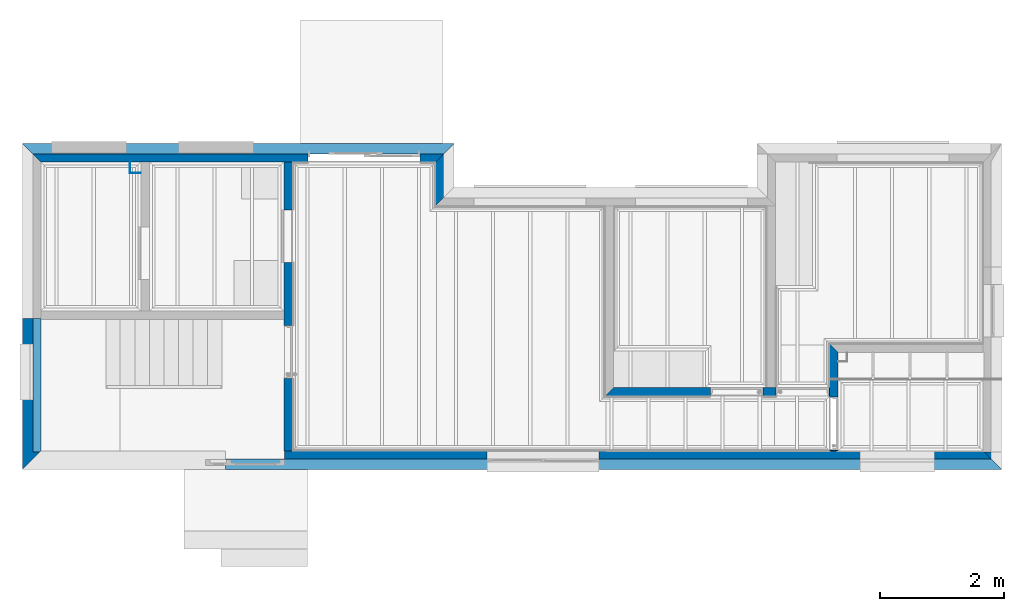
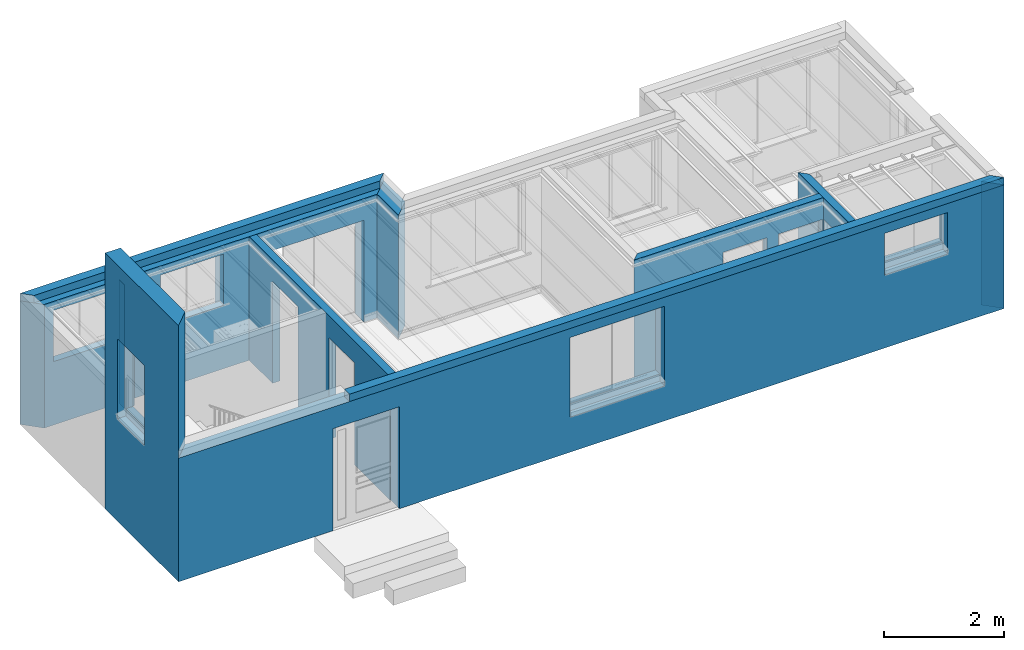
# One storey, part 2 of 15: 12 walls.
"""IFC2X3 building model written with IfcOpenShell, lengths in millimetres."""

from ifc_helpers import new_model, entity, si_unit, converted_unit, money_unit, direction, frame, origin_with_axes, place, context, subcontext, project, spatial, faceted_brep, material, material_list, type_object, element, save


model = new_model("IFC2X3")

# Units and contexts
model_context = context("Model", 3, precision=1e-05, world=origin_with_axes(), true_north=direction((0.0, 1.0)))
body_context = subcontext(model_context, "Body", "Model", "MODEL_VIEW")
ifc_project = project(units=[si_unit("LENGTHUNIT", "METRE", prefix="MILLI"), si_unit("AREAUNIT", "SQUARE_METRE"), si_unit("VOLUMEUNIT", "CUBIC_METRE"), converted_unit("PLANEANGLEUNIT", "DEGREE", entity("IfcPlaneAngleMeasure", 0.0174532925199), si_unit("PLANEANGLEUNIT", "RADIAN"), dimensions=[0, 0, 0, 0, 0, 0, 0]), si_unit("SOLIDANGLEUNIT", "STERADIAN"), money_unit("AUD"), si_unit("TIMEUNIT", "SECOND"), si_unit("MASSUNIT", "GRAM"), si_unit("THERMODYNAMICTEMPERATUREUNIT", "DEGREE_CELSIUS"), si_unit("LUMINOUSINTENSITYUNIT", "LUMEN")], contexts=[model_context])

# Site, building, storey
site_placement = place(None, origin_with_axes())
site = spatial("IfcSite", under=ifc_project, at=site_placement, Name="Lot 1. East Hills", CompositionType="ELEMENT")
building_placement = place(site_placement, origin_with_axes())
building = spatial("IfcBuilding", under=site, at=building_placement, Name="Proposed Units 7 & 8", CompositionType="ELEMENT")
storey_placement = place(building_placement, frame((0.0, 0.0, 3202.0), z_axis=(0.0, 0.0, 1.0), x_axis=(1.0, 0.0, 0.0)))
storey = spatial("IfcBuildingStorey", under=building, at=storey_placement, Name="Ground", CompositionType="ELEMENT", Elevation=3202.0)

# Walls
ifc_material_1 = material(Name="Empty Fill")
wall_type_1 = type_object("IfcWallType", Name="Empty Fill 13", PredefinedType="NOTDEFINED")
wall_1_placement = place(storey_placement, frame((1730.0, 5263.0, 0.0), z_axis=(0.0, 0.0, 1.0), x_axis=(0.0, -1.0, 0.0)))
element("IfcWall", 1, at=wall_1_placement, inside=storey, type_object=wall_type_1, material=ifc_material_1, Name="Wall007 Empty Fill Wall", context=body_context, shape_type="Brep", body=[
    faceted_brep([(479.999999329, 0.0, 2507.0), (466.999999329, 13.0, 2507.0), (294.999998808, 13.0, 2507.0), (294.999998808, 0.0, 2507.0), (479.999999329, 0.0, 0.0), (466.999999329, 13.0, 0.0), (294.999998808, 13.0, 0.0), (294.999998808, 0.0, 0.0)], [[[0, 1, 2, 3]], [[1, 0, 4, 5]], [[1, 5, 6, 2]], [[3, 2, 6, 7]], [[4, 0, 3, 7]], [[5, 4, 7, 6]]]),
])
wall_2_placement = place(storey_placement, frame((1915.0, 4783.00000067, 0.0), z_axis=(0.0, 0.0, 1.0), x_axis=(-1.0, 0.0, 0.0)))
element("IfcWall", 2, at=wall_2_placement, inside=storey, type_object=wall_type_1, material=ifc_material_1, Name="Wall007 Empty Fill Wall", context=body_context, shape_type="Brep", body=[
    faceted_brep([(172.0, -13.0, 0.0), (172.0, -13.0, 2507.0), (0.0, -13.0, 2507.0), (0.0, -13.0, 0.0), (185.0, 0.0, 2507.0), (185.0, 0.0, 0.0), (0.0, 0.0, 2507.0), (0.0, 0.0, 0.0)], [[[0, 1, 2, 3]], [[4, 1, 0, 5]], [[1, 4, 6, 2]], [[6, 7, 3, 2]], [[5, 0, 3, 7]], [[4, 5, 7, 6]]]),
])
ifc_material_2 = material(Name="Brickwork Faced")
ifc_material_3 = material(Name="Cavity")
ifc_material_4 = material(Name="Cement Render")
ifc_material_list_1 = material_list([ifc_material_2, ifc_material_3, ifc_material_2, ifc_material_4])
wall_type_2 = type_object("IfcWallType", Name="Cavity wall 280 295", PredefinedType="NOTDEFINED")
wall_3_placement = place(storey_placement, frame((0.0, 2433.00000127, 0.0), z_axis=(0.0, 0.0, 1.0), x_axis=(0.0, -1.0, 0.0)))
element("IfcWall", 3, at=wall_3_placement, inside=storey, type_object=wall_type_2, material=ifc_material_list_1, Name="EXT-WALL-G10 Cavity wall 280 Wall", context=body_context, shape_type="Brep", body=[
    faceted_brep([(2140.00008808, 294.999998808, 1358.5), (0.0, 294.999998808, 1358.5), (0.0, 294.999998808, 5193.0), (2140.00032974, 294.999998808, 5193.0), (411.178294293, 294.999998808, 2228.5), (1311.17829429, 294.999998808, 2228.5), (1311.17829429, 294.999998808, 3695.5), (411.178294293, 294.999998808, 3695.5), (0.0, 169.999886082, 1358.5), (2155.00000194, 279.999999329, 1358.5), (2155.00000194, 169.999886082, 1358.5), (0.0, 169.999886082, 1158.5), (0.0, 294.999998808, 1158.5), (0.0, 294.999998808, 0.0), (0.0, 0.0, 0.0), (0.0, 0.0, 5193.0), (2435.00000127, 0.0, 5193.0), (2435.00000127, 0.0, 0.0), (2140.00000246, 294.999998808, 0.0), (2140.00007547, 294.999998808, 1158.5), (2155.00000194, 279.999999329, 1158.5), (411.178294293, 157.504447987, 2228.5), (1311.17829429, 157.504447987, 2228.5), (1311.17829429, 120.0, 2228.5), (1311.17829429, 120.0, 3695.5), (411.178294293, 120.0, 3695.5), (411.178294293, 120.0, 2228.5), (2155.00000194, 169.999886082, 1158.5), (411.178294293, 0.0, 2082.55078588), (411.178294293, 0.0, 3695.5), (1311.17829429, 0.0, 3695.5), (1311.17829429, 0.0, 2082.55078588), (411.178294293, 157.504447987, 2082.55078588), (1311.17829429, 157.504447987, 2082.55078588)], [[[0, 1, 2, 3], [4, 5, 6, 7]], [[8, 1, 0, 9, 10]], [[11, 12, 13, 14, 15, 2, 1, 8]], [[3, 2, 15, 16]], [[9, 0, 3, 16, 17, 18, 19, 20]], [[21, 22, 5, 4]], [[22, 23, 24, 6, 5]], [[25, 7, 6, 24]], [[26, 21, 4, 7, 25]], [[9, 20, 27, 10]], [[11, 8, 10, 27]], [[19, 12, 11, 27, 20]], [[12, 19, 18, 13]], [[17, 14, 13, 18]], [[16, 15, 14, 17], [28, 29, 30, 31]], [[22, 21, 32, 33]], [[23, 22, 33, 31, 30, 24]], [[29, 25, 24, 30]], [[29, 28, 32, 21, 26, 25]], [[28, 31, 33, 32]]]),
])
wall_4_placement = place(storey_placement, frame((6975.0, 5263.0, 0.0), z_axis=(0.0, 0.0, 1.0), x_axis=(0.0, -1.0, 0.0)))
element("IfcWall", 4, at=wall_4_placement, inside=storey, type_object=wall_type_2, material=ifc_material_list_1, Name="EXT-WALL-G04 Cavity wall 280 Wall", context=body_context, shape_type="Brep", body=[
    faceted_brep([(1004.99999881, -294.999998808, 2507.0), (710.0, 0.0, 2507.0), (0.0, 0.0, 2507.0), (294.999998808, -294.999998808, 2507.0), (1004.99999881, -294.999998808, 0.0), (710.0, 0.0, 0.0), (0.0, 0.0, 0.0), (294.999998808, -294.999998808, 0.0)], [[[0, 1, 2, 3]], [[1, 0, 4, 5]], [[1, 5, 6, 2]], [[3, 2, 6, 7]], [[4, 0, 3, 7]], [[5, 4, 7, 6]]]),
])
wall_5_placement = place(storey_placement, frame((6975.0, 5263.0, 0.0), z_axis=(0.0, 0.0, 1.0), x_axis=(-1.0, 0.0, 0.0)))
element("IfcWall", 5, at=wall_5_placement, inside=storey, type_object=wall_type_2, material=ifc_material_list_1, Name="EXT-WALL-G09 Cavity wall 280 Wall", context=body_context, shape_type="Brep", body=[
    faceted_brep([(2357.50000067, 0.0, 2067.0), (2357.50000067, 0.0, 0.0), (6975.0, 0.0, 0.0), (6975.0, 0.0, 2507.0), (0.0, 0.0, 2507.0), (0.0, 0.0, 0.0), (547.500000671, 0.0, 0.0), (547.500000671, 0.0, 2067.0), (4450.0, 0.0, 2324.0), (4450.0, 0.0, 1140.05078588), (3240.0, 0.0, 1140.05078588), (3240.0, 0.0, 2324.0), (5295.03569864, 0.0, 2324.0), (6505.03569864, 0.0, 2324.0), (6505.03569864, 0.0, 1140.05078588), (5295.03569864, 0.0, 1140.05078588), (2357.50000067, 214.999998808, 2067.0), (2357.50000067, 214.999998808, 0.0), (2357.50000067, 294.999998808, 0.0), (6680.00000119, 294.999998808, 0.0), (6680.00000119, 294.999998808, 2507.0), (294.999998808, 294.999998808, 2507.0), (294.999998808, 294.999998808, 0.0), (547.500000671, 214.999998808, 0.0), (547.500000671, 294.999998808, 0.0), (547.500000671, 214.999998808, 2067.0), (4450.0, 157.504447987, 1286.0), (4450.0, 157.504447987, 1140.05078588), (4450.0, 120.0, 2324.0), (4450.0, 120.0, 1286.0), (3240.0, 157.504447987, 1140.05078588), (3240.0, 157.504447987, 1286.0), (3240.0, 120.0, 1286.0), (3240.0, 120.0, 2324.0), (6505.03569864, 120.0, 2324.0), (5295.03569864, 120.0, 2324.0), (6505.03569864, 120.0, 1286.0), (6505.03569864, 157.504447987, 1286.0), (6505.03569864, 157.504447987, 1140.05078588), (5295.03569864, 157.504447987, 1140.05078588), (5295.03569864, 120.0, 1286.0), (5295.03569864, 157.504447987, 1286.0), (2357.50000067, 294.999998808, 2067.0), (547.500000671, 294.999998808, 2067.0), (6505.03569864, 294.999998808, 2324.0), (5295.03569864, 294.999998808, 2324.0), (5295.03569864, 294.999998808, 1286.0), (6505.03569864, 294.999998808, 1286.0), (3240.0, 294.999998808, 2324.0), (3240.0, 294.999998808, 1286.0), (4450.0, 294.999998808, 1286.0), (4450.0, 294.999998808, 2324.0)], [[[0, 1, 2, 3, 4, 5, 6, 7], [8, 9, 10, 11], [12, 13, 14, 15]], [[1, 0, 16, 17]], [[1, 17, 18, 19, 2]], [[20, 3, 2, 19]], [[3, 20, 21, 4]], [[4, 21, 22, 5]], [[23, 6, 5, 22, 24]], [[7, 6, 23, 25]], [[0, 7, 25, 16]], [[26, 27, 9, 8, 28, 29]], [[30, 10, 9, 27]], [[10, 30, 31, 32, 33, 11]], [[8, 11, 33, 28]], [[34, 13, 12, 35]], [[13, 34, 36, 37, 38, 14]], [[38, 39, 15, 14]], [[40, 35, 12, 15, 39, 41]], [[17, 16, 42, 18]], [[42, 43, 24, 22, 21, 20, 19, 18], [44, 45, 46, 47], [48, 49, 50, 51]], [[25, 23, 24, 43]], [[16, 25, 43, 42]], [[27, 26, 31, 30]], [[26, 29, 28, 51, 50]], [[32, 31, 49, 48, 33]], [[48, 51, 28, 33]], [[35, 45, 44, 34]], [[44, 47, 37, 36, 34]], [[39, 38, 37, 41]], [[45, 35, 40, 41, 46]], [[47, 46, 41, 37]], [[49, 31, 26, 50]]]),
])
wall_6_placement = place(storey_placement, frame((15830.0, -2.0, 0.0), z_axis=(0.0, 0.0, 1.0), x_axis=(0.0, 1.0, 0.0)))
element("IfcWall", 6, at=wall_6_placement, inside=storey, type_object=wall_type_2, material=ifc_material_list_1, Name="EXT-WALL-G07 Cavity wall 280 Wall", context=body_context, shape_type="Brep", body=[
    faceted_brep([(282.000032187, 282.000032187, 2507.0), (0.0, 0.0, 2507.0), (282.000032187, 0.0, 2507.0), (282.000032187, 282.000032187, 0.0), (0.0, 0.0, 0.0), (282.000032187, 0.0, 0.0)], [[[0, 1, 2]], [[1, 0, 3, 4]], [[1, 4, 5, 2]], [[3, 0, 2, 5]], [[4, 3, 5]]]),
])
wall_7_placement = place(storey_placement, frame((0.0, -2.0, 0.0), z_axis=(0.0, 0.0, 1.0), x_axis=(1.0, 0.0, 0.0)))
element("IfcWall", 7, at=wall_7_placement, inside=storey, type_object=wall_type_2, material=ifc_material_list_1, Name="EXT-WALL-G05 Cavity wall 280 Wall", context=body_context, shape_type="Brep", body=[
    faceted_brep([(4239.99999933, 134.999998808, 0.0), (4239.99999933, 134.999998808, 2067.0), (4239.99999933, 294.999998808, 2067.0), (4239.99999933, 294.999998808, 0.0), (4239.99999933, 0.0, 0.0), (4239.99999933, 0.0, 2067.0), (2959.99999933, 134.999998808, 2067.0), (2959.99999933, 294.999998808, 2067.0), (2959.99999933, 294.999998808, 0.0), (294.999998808, 294.999998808, 0.0), (294.999998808, 294.999998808, 2507.0), (15535.0000012, 294.999998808, 2507.0), (15535.0000012, 294.999998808, 0.0), (14750.1182137, 294.999998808, 1629.0), (14750.1182137, 294.999998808, 2325.0), (13540.1182137, 294.999998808, 2325.0), (13540.1182137, 294.999998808, 1629.0), (9319.94696814, 294.999998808, 2324.0), (7509.94696814, 294.999998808, 2324.0), (7509.94696814, 294.999998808, 857.0), (9319.94696814, 294.999998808, 857.0), (15830.0, 0.0, 0.0), (15830.0, 0.0, 2507.0), (0.0, 0.0, 2507.0), (0.0, 0.0, 0.0), (2959.99999933, 0.0, 0.0), (2959.99999933, 0.0, 2067.0), (9319.94696814, 0.0, 711.050785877), (7509.94696814, 0.0, 711.050785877), (7509.94696814, 0.0, 2324.0), (9319.94696814, 0.0, 2324.0), (14750.1182137, 0.0, 2325.0), (14750.1182137, 0.0, 1483.05078588), (13540.1182137, 0.0, 1483.05078588), (13540.1182137, 0.0, 2325.0), (2959.99999933, 134.999998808, 0.0), (14750.1182137, 157.504447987, 1629.0), (14750.1182137, 120.0, 1629.0), (14750.1182137, 120.0, 2325.0), (13540.1182137, 120.0, 2325.0), (13540.1182137, 120.0, 1629.0), (13540.1182137, 157.504447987, 1629.0), (9319.94696814, 120.0, 2324.0), (7509.94696814, 120.0, 2324.0), (7509.94696814, 120.0, 857.0), (7509.94696814, 157.504447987, 857.0), (9319.94696814, 157.504447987, 857.0), (9319.94696814, 120.0, 857.0), (7509.94696814, 157.504447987, 711.050785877), (9319.94696814, 157.504447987, 711.050785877), (14750.1182137, 157.504447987, 1483.05078588), (13540.1182137, 157.504447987, 1483.05078588)], [[[0, 1, 2, 3]], [[1, 0, 4, 5]], [[1, 6, 7, 2]], [[2, 7, 8, 9, 10, 11, 12, 3], [13, 14, 15, 16], [17, 18, 19, 20]], [[4, 0, 3, 12, 21]], [[5, 4, 21, 22, 23, 24, 25, 26], [27, 28, 29, 30], [31, 32, 33, 34]], [[6, 1, 5, 26]], [[6, 35, 8, 7]], [[35, 25, 24, 9, 8]], [[23, 10, 9, 24]], [[22, 11, 10, 23]], [[11, 22, 21, 12]], [[14, 13, 36, 37, 38]], [[14, 38, 39, 15]], [[15, 39, 40, 41, 16]], [[13, 16, 41, 36]], [[42, 43, 18, 17]], [[44, 45, 19, 18, 43]], [[19, 45, 46, 20]], [[46, 47, 42, 17, 20]], [[35, 6, 26, 25]], [[48, 28, 27, 49]], [[28, 48, 45, 44, 43, 29]], [[30, 29, 43, 42]], [[46, 49, 27, 30, 42, 47]], [[31, 38, 37, 36, 50, 32]], [[50, 51, 33, 32]], [[40, 39, 34, 33, 51, 41]], [[38, 31, 34, 39]], [[51, 50, 36, 41]], [[49, 46, 45, 48]]]),
])
ifc_material_list_2 = material_list([ifc_material_2, ifc_material_3])
wall_type_3 = type_object("IfcWallType", Name="Cavity wall @slab 0017047810 170", PredefinedType="NOTDEFINED")
wall_8_placement = place(storey_placement, frame((3280.00005197, -1.99807592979, 2507.0), z_axis=(0.0, 0.0, 1.0), x_axis=(1.0, 0.0, 0.0)))
element("IfcWall", 8, at=wall_8_placement, inside=storey, type_object=wall_type_3, material=ifc_material_list_2, Name="EXT-WALL-GH06 Cavity wall @slab 0017047810 Wall", context=body_context, shape_type="Brep", body=[
    faceted_brep([(12549.9999446, 0.0, 0.0), (12549.9999446, 0.0, 150.0), (0.0, 0.0, 150.0), (0.0, 0.0, 0.0), (12379.9999495, 169.999999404, 150.0), (12379.9999495, 169.999999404, 0.0), (0.0, 169.999999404, 150.0), (0.0, 169.999999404, 0.0)], [[[0, 1, 2, 3]], [[4, 1, 0, 5]], [[1, 4, 6, 2]], [[6, 7, 3, 2]], [[5, 0, 3, 7]], [[4, 5, 7, 6]]]),
])
wall_type_4 = type_object("IfcWallType", Name="Cavity wall @slab 170", PredefinedType="NOTDEFINED")
wall_9_placement = place(storey_placement, frame((6975.0, 5263.0, 2507.0), z_axis=(0.0, 0.0, 1.0), x_axis=(-1.0, 0.0, 0.0)))
element("IfcWall", 9, at=wall_9_placement, inside=storey, type_object=wall_type_4, material=ifc_material_list_2, Name="EXT-WALL-GH01 Cavity wall @slab Wall", context=body_context, shape_type="Brep", body=[
    faceted_brep([(6975.0, 0.0, 150.0), (6805.0000006, 169.999999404, 150.0), (169.999999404, 169.999999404, 150.0), (0.0, 0.0, 150.0), (6975.0, 0.0, 0.0), (6805.0000006, 169.999999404, 0.0), (169.999999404, 169.999999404, 0.0), (0.0, 0.0, 0.0)], [[[0, 1, 2, 3]], [[1, 0, 4, 5]], [[1, 5, 6, 2]], [[3, 2, 6, 7]], [[4, 0, 3, 7]], [[5, 4, 7, 6]]]),
])
ifc_material_list_3 = material_list([ifc_material_4, ifc_material_2, ifc_material_4])
wall_type_5 = type_object("IfcWallType", Name="Solid Brick Render Both Side 140 140", PredefinedType="NOTDEFINED")
wall_10_placement = place(storey_placement, frame((4224.99999933, 5262.9999928, 0.0), z_axis=(0.0, 0.0, 1.0), x_axis=(7.51477654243e-06, -0.999999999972, 0.0)))
element("IfcWall", 10, at=wall_10_placement, inside=storey, type_object=wall_type_5, material=ifc_material_list_3, Name="INT-WALLG00 Solid Brick Render Both Side 140 Wall", context=body_context, shape_type="Brep", body=[
    faceted_brep([(3793.52904231, 139.999999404, 0.0), (3793.52904231, 139.999999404, 2067.0), (2943.52904231, 139.999999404, 2067.0), (2943.52904231, 139.999999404, 0.0), (1919.99999933, 139.999999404, 0.0), (1919.99999933, 139.999999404, 2067.0), (1069.99999933, 139.999999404, 2067.0), (1069.99999933, 139.999999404, 0.0), (295.001043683, 139.999999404, 0.0), (295.001043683, 139.999999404, 2507.0), (4970.0010462, 139.999999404, 2507.0), (4970.0010462, 139.999999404, 0.0), (3793.52904231, 0.0, 0.0), (3793.52904231, 0.0, 2067.0), (2943.52904231, 0.0, 2067.0), (2943.52904231, 0.0, 0.0), (1919.99999933, 0.0, 0.0), (1919.99999933, 0.0, 2067.0), (1069.99999933, 0.0, 2067.0), (1069.99999933, 0.0, 0.0), (294.999991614, 0.0, 0.0), (294.999991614, 0.0, 2507.0), (4969.99999413, 0.0, 2507.0), (4969.99999413, 0.0, 0.0)], [[[0, 1, 2, 3, 4, 5, 6, 7, 8, 9, 10, 11]], [[1, 0, 12, 13]], [[2, 1, 13, 14]], [[3, 2, 14, 15]], [[3, 15, 16, 4]], [[17, 5, 4, 16]], [[18, 6, 5, 17]], [[19, 7, 6, 18]], [[8, 7, 19, 20]], [[8, 20, 21, 9]], [[9, 21, 22, 10]], [[22, 23, 11, 10]], [[12, 0, 11, 23]], [[13, 12, 23, 22, 21, 20, 19, 18, 17, 16, 15, 14]]]),
])
wall_11_placement = place(storey_placement, frame((13050.000002, -2.00000000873, 0.0), z_axis=(0.0, 0.0, 1.0), x_axis=(-6.99747009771e-10, 1.0, 0.0)))
element("IfcWall", 11, at=wall_11_placement, inside=storey, type_object=wall_type_5, material=ifc_material_list_3, Name="INT-WALLG07 Solid Brick Render Both Side 140 Wall", context=body_context, shape_type="Brep", body=[
    faceted_brep([(314.999998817, -139.999999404, 0.0), (314.999998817, -139.999999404, 2067.0), (1164.99999882, -139.999999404, 2067.0), (1164.99999882, -139.999999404, 0.0), (1884.99999924, -139.999999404, 0.0), (1884.99999924, -139.999999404, 2507.0), (294.999998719, -139.999999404, 2507.0), (294.999998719, -139.999999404, 0.0), (314.999998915, 0.0, 0.0), (314.999998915, 0.0, 2067.0), (1164.99999891, 0.0, 2067.0), (1164.99999891, 0.0, 0.0), (2024.99999874, 0.0, 0.0), (2024.99999874, 0.0, 2507.0), (294.999998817, 0.0, 2507.0), (294.999998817, 0.0, 0.0)], [[[0, 1, 2, 3, 4, 5, 6, 7]], [[1, 0, 8, 9]], [[2, 1, 9, 10]], [[3, 2, 10, 11]], [[3, 11, 12, 4]], [[12, 13, 5, 4]], [[6, 5, 13, 14]], [[15, 7, 6, 14]], [[8, 0, 7, 15]], [[9, 8, 15, 14, 13, 12, 11, 10]]]),
])
wall_12_placement = place(storey_placement, frame((13050.0000012, 1183.00000045, 0.0), z_axis=(0.0, 0.0, 1.0), x_axis=(-1.0, 0.0, 0.0)))
element("IfcWall", 12, at=wall_12_placement, inside=storey, type_object=wall_type_5, material=ifc_material_list_3, Name="INT-WALLG04 Solid Brick Render Both Side 140 Wall", context=body_context, shape_type="Brep", body=[
    faceted_brep([(1927.50000109, -139.999999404, 2067.0), (1927.50000109, -139.999999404, 0.0), (3490.00000221, -139.999999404, 0.0), (3490.00000221, -139.999999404, 2507.0), (0.0, -139.999999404, 2507.0), (0.0, -139.999999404, 0.0), (12.5000000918, -139.999999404, 0.0), (12.5000000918, -139.999999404, 2067.0), (862.500000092, -139.999999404, 2067.0), (862.500000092, -139.999999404, 0.0), (1077.50000109, -139.999999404, 0.0), (1077.50000109, -139.999999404, 2067.0), (1927.50000109, 0.0, 2067.0), (1927.50000109, 0.0, 0.0), (3630.00000161, 0.0, 0.0), (3630.00000161, 0.0, 2507.0), (0.0, 0.0, 2507.0), (0.0, 0.0, 0.0), (12.5000000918, 0.0, 0.0), (12.5000000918, 0.0, 2067.0), (862.500000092, 0.0, 2067.0), (862.500000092, 0.0, 0.0), (1077.50000109, 0.0, 0.0), (1077.50000109, 0.0, 2067.0)], [[[0, 1, 2, 3, 4, 5, 6, 7, 8, 9, 10, 11]], [[1, 0, 12, 13]], [[1, 13, 14, 2]], [[2, 14, 15, 3]], [[16, 4, 3, 15]], [[5, 4, 16, 17]], [[17, 18, 6, 5]], [[19, 7, 6, 18]], [[20, 8, 7, 19]], [[21, 9, 8, 20]], [[22, 10, 9, 21]], [[11, 10, 22, 23]], [[0, 11, 23, 12]], [[23, 22, 21, 20, 19, 18, 17, 16, 15, 14, 13, 12]]]),
])

save(model, "model.ifc")
